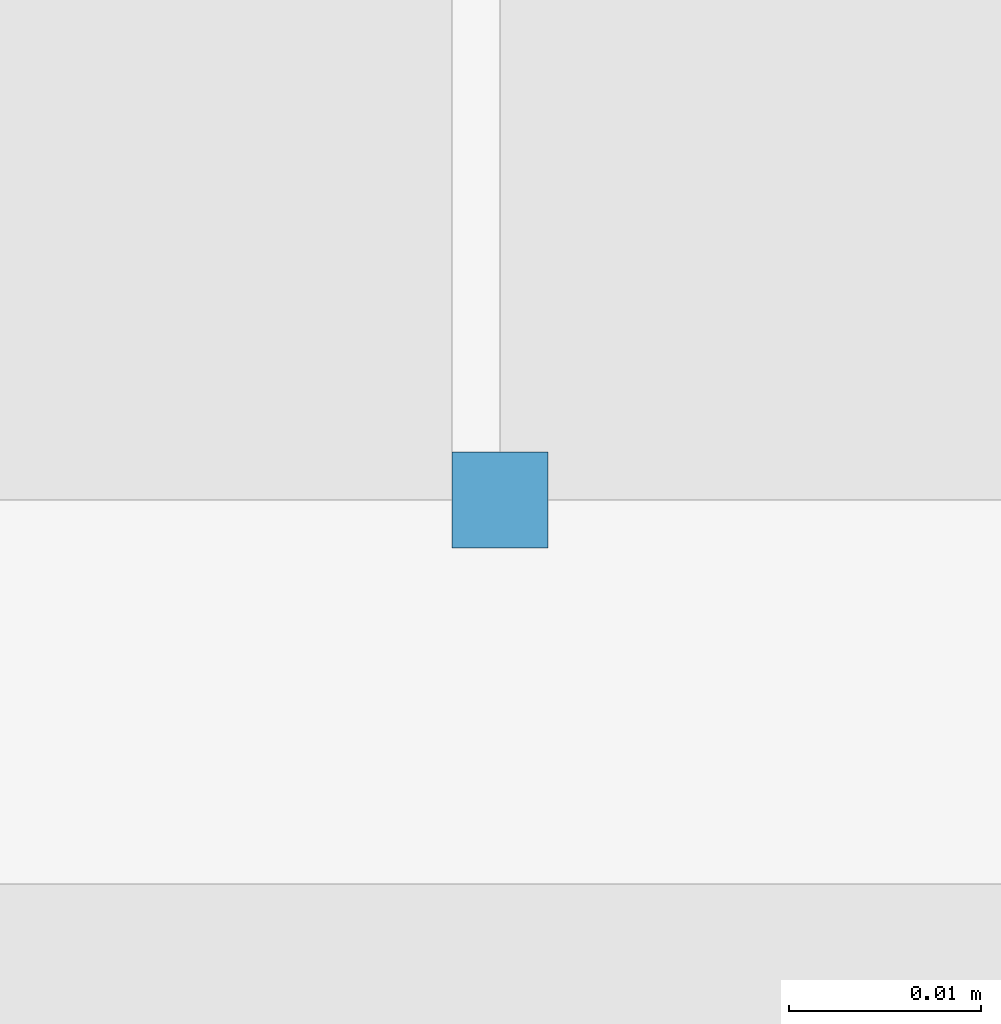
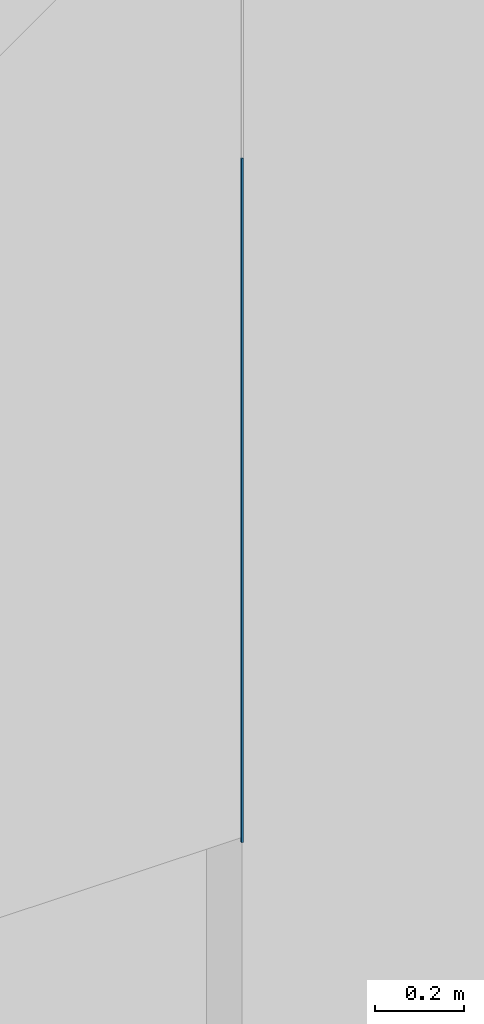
# One storey, part 68 of 302: 1 member, 1 element without a shape of its own.
"""IFC2X3 building model written with IfcOpenShell, lengths in metres."""

from ifc_helpers import new_model, entity, si_unit, converted_unit, derived_unit, direction, frame, frame_2d, origin, place, context, subcontext, project, spatial, rectangle, extrude, source, transform, mapped, material, type_object, type_shapes, element, aggregate, save


model = new_model("IFC2X3")

# Units and contexts
model_context = context("Model", 3, precision=1e-05, world=origin(), true_north=direction((6.12303176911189e-17, 1.0)))
body_context = subcontext(model_context, "Body", "Model", "MODEL_VIEW")
ifc_project = project(units=[si_unit("LENGTHUNIT", "METRE"), si_unit("AREAUNIT", "SQUARE_METRE"), si_unit("VOLUMEUNIT", "CUBIC_METRE"), converted_unit("PLANEANGLEUNIT", "DEGREE", entity("IfcRatioMeasure", 0.0174532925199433), si_unit("PLANEANGLEUNIT", "RADIAN"), dimensions=[0, 0, 0, 0, 0, 0, 0]), si_unit("MASSUNIT", "GRAM", prefix="KILO"), derived_unit("MASSDENSITYUNIT", [(si_unit("MASSUNIT", "GRAM", prefix="KILO"), 1), (si_unit("LENGTHUNIT", "METRE"), -3)]), derived_unit("MOMENTOFINERTIAUNIT", [(si_unit("LENGTHUNIT", "METRE"), 4)]), si_unit("TIMEUNIT", "SECOND"), si_unit("FREQUENCYUNIT", "HERTZ"), si_unit("THERMODYNAMICTEMPERATUREUNIT", "DEGREE_CELSIUS"), derived_unit("THERMALTRANSMITTANCEUNIT", [(si_unit("MASSUNIT", "GRAM", prefix="KILO"), 1), (si_unit("THERMODYNAMICTEMPERATUREUNIT", "KELVIN"), -1), (si_unit("TIMEUNIT", "SECOND"), -3)]), derived_unit("VOLUMETRICFLOWRATEUNIT", [(si_unit("LENGTHUNIT", "METRE"), 3), (si_unit("TIMEUNIT", "SECOND"), -1)]), si_unit("ELECTRICCURRENTUNIT", "AMPERE"), si_unit("ELECTRICVOLTAGEUNIT", "VOLT"), si_unit("POWERUNIT", "WATT"), si_unit("FORCEUNIT", "NEWTON", prefix="KILO"), si_unit("ILLUMINANCEUNIT", "LUX"), si_unit("LUMINOUSFLUXUNIT", "LUMEN"), si_unit("LUMINOUSINTENSITYUNIT", "CANDELA"), derived_unit("USERDEFINED", [(si_unit("MASSUNIT", "GRAM", prefix="KILO"), -1), (si_unit("LENGTHUNIT", "METRE"), -2), (si_unit("TIMEUNIT", "SECOND"), 3), (si_unit("LUMINOUSFLUXUNIT", "LUMEN"), 1)]), derived_unit("LINEARVELOCITYUNIT", [(si_unit("LENGTHUNIT", "METRE"), 1), (si_unit("TIMEUNIT", "SECOND"), -1)]), si_unit("PRESSUREUNIT", "PASCAL"), derived_unit("USERDEFINED", [(si_unit("LENGTHUNIT", "METRE"), -2), (si_unit("MASSUNIT", "GRAM", prefix="KILO"), 1), (si_unit("TIMEUNIT", "SECOND"), -2)]), derived_unit("LINEARFORCEUNIT", [(si_unit("MASSUNIT", "GRAM", prefix="KILO"), 1), (si_unit("LENGTHUNIT", "METRE"), 1), (si_unit("TIMEUNIT", "SECOND"), -2), (si_unit("LENGTHUNIT", "METRE"), -1)]), derived_unit("PLANARFORCEUNIT", [(si_unit("MASSUNIT", "GRAM", prefix="KILO"), 1), (si_unit("LENGTHUNIT", "METRE"), 1), (si_unit("TIMEUNIT", "SECOND"), -2), (si_unit("LENGTHUNIT", "METRE"), -2)])], contexts=[model_context])

# Site, building, storey
site_placement = place(None, origin())
site = spatial("IfcSite", under=ifc_project, at=site_placement, Name="Default", CompositionType="ELEMENT")
building_placement = place(site_placement, origin())
building = spatial("IfcBuilding", under=site, at=building_placement, CompositionType="ELEMENT")
storey_placement = place(building_placement, frame((0.0, 0.0, -1.3)))
storey = spatial("IfcBuildingStorey", under=building, at=storey_placement, Name="00_EG", CompositionType="ELEMENT", Elevation=-1.3)

# Curtain wall, member
curtain_wall_type = type_object("IfcCurtainWallType", Name="Fassade:Curtain Wall 1", PredefinedType="NOTDEFINED")
curtain_wall_placement = place(storey_placement, frame((0.0, 0.0, 1.3)))
curtain_wall = element("IfcCurtainWall", 1, at=curtain_wall_placement, inside=storey, type_object=curtain_wall_type, Name="Fassade:Curtain Wall 1", ObjectType="Fassade:Curtain Wall 1")
ifc_material = material(Name="Aluminium")
member_type = type_object("IfcMemberType", Name="Rectangular Mullion:Paneele Spalt", PredefinedType="MULLION", material=ifc_material)
shared_shape = source(origin(), body_context, "Body", "SweptSolid", [
    extrude(rectangle(XDim=0.005, YDim=0.005, at=frame_2d((0.0, -6.50521303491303e-19), x_axis=(1.0, 0.0))), frame((0.0, 0.0, -1.88068403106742), z_axis=(0.0, 0.0, 1.0), x_axis=(0.0, -1.0, 0.0)), (0.0, 0.0, 1.0), 1.88068403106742),
])
type_shapes(member_type, [shared_shape])
member_placement = place(storey_placement, frame((-226.610111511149, 45.578088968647, 6.61931596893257), z_axis=(0.0, 0.0, -1.0), x_axis=(-1.0, 0.0, 0.0)))
member = element("IfcMember", 2, at=member_placement, type_object=member_type, material=ifc_material, Name="Rectangular Mullion:Paneele Spalt", ObjectType="Rectangular Mullion:Paneele Spalt", context=body_context, shape_type="MappedRepresentation", body=[
    mapped(shared_shape, transform((0.0, 0.0, 0.0), scale=1.0)),
])
aggregate(curtain_wall, [member])

save(model, "model.ifc")
